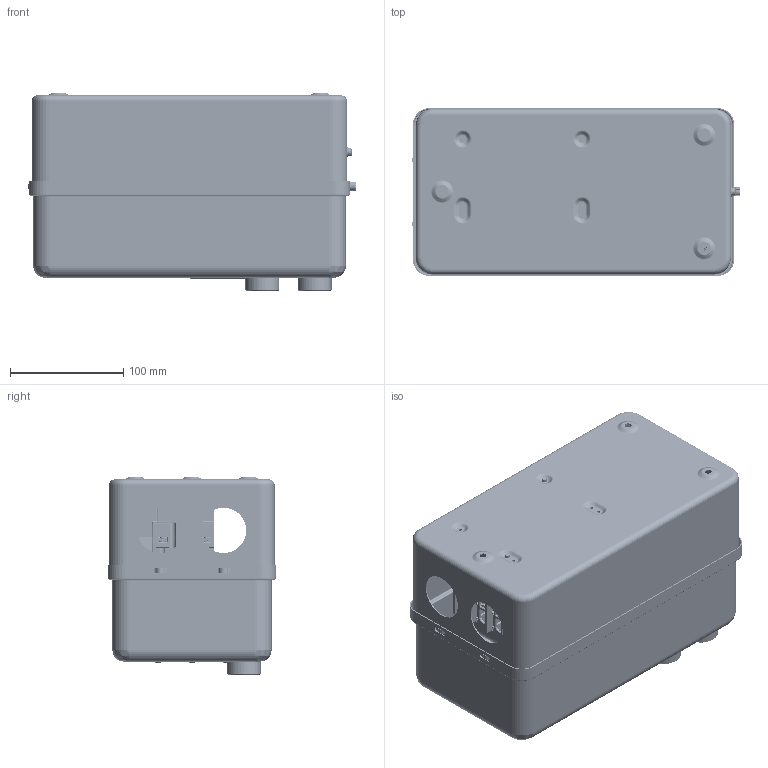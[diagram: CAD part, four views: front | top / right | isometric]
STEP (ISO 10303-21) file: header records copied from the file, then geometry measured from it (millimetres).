
FILE_DESCRIPTION((''),'2;1');
FILE_NAME('CDS2S-63B_ASM','2021-05-24T',('yunfei.yang'),(''),'PRO/ENGINEER BY PARAMETRIC TECHNOLOGY CORPORATION, 2015440','PRO/ENGINEER BY PARAMETRIC TECHNOLOGY CORPORATION, 2015440','');
FILE_SCHEMA(('CONFIG_CONTROL_DESIGN'));
Products named in the file (45): 8004002300; BREP_WITH_VOIDS_236942; MANIFOLD_SOLID_BREP_237480; MANIFOLD_SOLID_BREP_239145; MANIFOLD_SOLID_BREP_239683; MANIFOLD_SOLID_BREP_241348; MANIFOLD_SOLID_BREP_241886; MANIFOLD_SOLID_BREP_243551; MANIFOLD_SOLID_BREP_244089; MANIFOLD_SOLID_BREP_245754; MANIFOLD_SOLID_BREP_246292; MANIFOLD_SOLID_BREP_247957; MANIFOLD_SOLID_BREP_248495; MANIFOLD_SOLID_BREP_250160; 2400022000_SW0001_1_ASM; CDC6I-40_ASM; MANIFOLD_SOLID_BREP_111441; MANIFOLD_SOLID_BREP_111591; MANIFOLD_SOLID_BREP_111741; MANIFOLD_SOLID_BREP_111891; MANIFOLD_SOLID_BREP_113262; MANIFOLD_SOLID_BREP_113412; MANIFOLD_SOLID_BREP_113562; MANIFOLD_SOLID_BREP_113712; MANIFOLD_SOLID_BREP_115083; MANIFOLD_SOLID_BREP_115233; MANIFOLD_SOLID_BREP_115383; MANIFOLD_SOLID_BREP_115533; MANIFOLD_SOLID_BREP_116904; 2331004000_SW0002_1_ASM; JR2H-93_ASM; 8004002200; 7030100424_GB_T9074_8_M4X12; PRT02; 7010100511K_GB_T9074_4_M4X16; PRT0029; PRT0030; PRT0031; PRT0032; PRT0033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
Assembly tree (46 placements, depth 4):
  CDS2S-63B_ASM
    8004002300
    CDC6I-40_ASM
      2400022000_SW0001_1_ASM
        BREP_WITH_VOIDS_236942
        MANIFOLD_SOLID_BREP_237480
        MANIFOLD_SOLID_BREP_239145
        MANIFOLD_SOLID_BREP_239683
        MANIFOLD_SOLID_BREP_241348
        MANIFOLD_SOLID_BREP_241886
        MANIFOLD_SOLID_BREP_243551
        MANIFOLD_SOLID_BREP_244089
        MANIFOLD_SOLID_BREP_245754
        MANIFOLD_SOLID_BREP_246292
        MANIFOLD_SOLID_BREP_247957
        MANIFOLD_SOLID_BREP_248495
        MANIFOLD_SOLID_BREP_250160
    JR2H-93_ASM
      2331004000_SW0002_1_ASM
        MANIFOLD_SOLID_BREP_111441
        MANIFOLD_SOLID_BREP_111591
        MANIFOLD_SOLID_BREP_111741
        MANIFOLD_SOLID_BREP_111891
        MANIFOLD_SOLID_BREP_113262
        MANIFOLD_SOLID_BREP_113412
        MANIFOLD_SOLID_BREP_113562
        MANIFOLD_SOLID_BREP_113712
        MANIFOLD_SOLID_BREP_115083
        MANIFOLD_SOLID_BREP_115233
        MANIFOLD_SOLID_BREP_115383
        MANIFOLD_SOLID_BREP_115533
        MANIFOLD_SOLID_BREP_116904
    8004002200
    7030100424_GB_T9074_8_M4X12
    PRT02
    7010100511K_GB_T9074_4_M4X16  x2
    ASM0009_ASM  x2
      ASM0010_ASM
        PRT0029
        PRT0030
        PRT0031
        PRT0032
        PRT0033
        PRT0034
        PRT0035
Bounding box: 289.19 x 148.3 x 174.4 mm (x, y, z)
Volume: 1031741.8 mm3; surface area: 716739.2 mm2
Topology: 47 solids, 64 shells, 13407 faces, 37018 edges, 23681 vertices
Faces by surface type: plane 7907, cylinder 2964, extrusion 722, bspline 712, cone 532, torus 402, sphere 168
Entity records: 421033 total; most frequent: CARTESIAN_POINT 109937, ORIENTED_EDGE 67646, DIRECTION 60242, EDGE_CURVE 33847, VECTOR 23748, LINE 23026, VERTEX_POINT 21741, AXIS2_PLACEMENT_3D 18247
